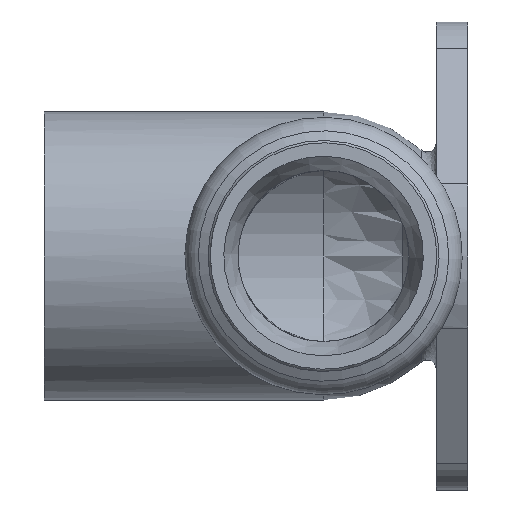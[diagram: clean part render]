
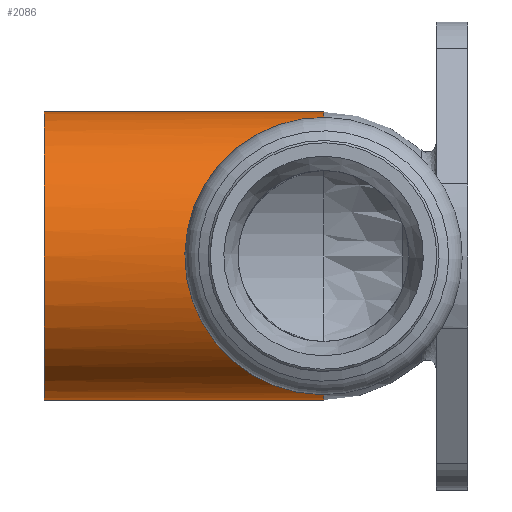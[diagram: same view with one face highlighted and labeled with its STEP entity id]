
A CAD part, left-side view. The second image highlights one B-rep face of the part: STEP entity #2086.
In plain terms, the highlighted cylindrical face has radius 16 mm (diameter 32 mm), a full revolution.
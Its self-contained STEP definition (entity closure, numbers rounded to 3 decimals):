
#751=CARTESIAN_POINT('',(16.,31.,0.0));
#752=VERTEX_POINT('',#751);
#753=CARTESIAN_POINT('',(0.,31.,0.0));
#754=DIRECTION('',(0.0,-1.0,0.0));
#755=DIRECTION('',(1.0,0.0,0.0));
#756=AXIS2_PLACEMENT_3D('',#753,#754,#755);
#757=CIRCLE('',#756,16.);
#758=EDGE_CURVE('',#752,#752,#757,.T.);
#1076=CARTESIAN_POINT('',(-9.076,0.,13.176));
#1077=VERTEX_POINT('',#1076);
#1110=CARTESIAN_POINT('',(-9.076,0.,-13.176));
#1111=VERTEX_POINT('',#1110);
#1119=CARTESIAN_POINT('',(0.,0.0,-16.));
#1120=VERTEX_POINT('',#1119);
#1121=CARTESIAN_POINT('',(0.,0.0,0.0));
#1122=DIRECTION('',(0.0,-1.0,0.0));
#1123=DIRECTION('',(1.0,0.0,0.0));
#1124=AXIS2_PLACEMENT_3D('',#1121,#1122,#1123);
#1125=CIRCLE('',#1124,16.);
#1126=EDGE_CURVE('',#1111,#1120,#1125,.T.);
#1128=CARTESIAN_POINT('',(0.,0.0,16.));
#1129=VERTEX_POINT('',#1128);
#1130=CARTESIAN_POINT('',(0.,0.0,0.0));
#1131=DIRECTION('',(0.0,-1.0,0.0));
#1132=DIRECTION('',(1.0,0.0,0.0));
#1133=AXIS2_PLACEMENT_3D('',#1130,#1131,#1132);
#1134=CIRCLE('',#1133,16.);
#1135=EDGE_CURVE('',#1120,#1129,#1134,.T.);
#1137=CARTESIAN_POINT('',(0.,0.0,0.0));
#1138=DIRECTION('',(0.0,-1.0,0.0));
#1139=DIRECTION('',(1.0,0.0,0.0));
#1140=AXIS2_PLACEMENT_3D('',#1137,#1138,#1139);
#1141=CIRCLE('',#1140,16.);
#1142=EDGE_CURVE('',#1129,#1077,#1141,.T.);
#1996=CARTESIAN_POINT('',(-9.076,0.,13.176));
#1997=CARTESIAN_POINT('',(-9.076,0.556,13.176));
#1998=CARTESIAN_POINT('',(-9.169,1.667,13.113));
#1999=CARTESIAN_POINT('',(-9.55,3.268,12.842));
#2000=CARTESIAN_POINT('',(-10.014,4.531,12.484));
#2001=CARTESIAN_POINT('',(-10.41,5.426,12.152));
#2002=CARTESIAN_POINT('',(-10.632,5.885,11.958));
#2003=CARTESIAN_POINT('',(-11.351,7.316,11.308));
#2004=CARTESIAN_POINT('',(-12.399,9.017,10.213));
#2005=CARTESIAN_POINT('',(-13.653,10.848,8.401));
#2006=CARTESIAN_POINT('',(-14.332,11.788,7.153));
#2007=CARTESIAN_POINT('',(-14.836,12.471,6.016));
#2008=CARTESIAN_POINT('',(-15.285,13.07,4.818));
#2009=CARTESIAN_POINT('',(-15.738,13.661,3.12));
#2010=CARTESIAN_POINT('',(-16.011,14.014,1.057));
#2011=CARTESIAN_POINT('',(-16.012,14.015,-0.696));
#2012=CARTESIAN_POINT('',(-15.876,13.839,-2.079));
#2013=CARTESIAN_POINT('',(-15.654,13.552,-3.431));
#2014=CARTESIAN_POINT('',(-15.33,13.129,-4.65));
#2015=CARTESIAN_POINT('',(-14.893,12.547,-5.875));
#2016=CARTESIAN_POINT('',(-14.522,12.046,-6.744));
#2017=CARTESIAN_POINT('',(-14.08,11.439,-7.617));
#2018=CARTESIAN_POINT('',(-13.457,10.564,-8.695));
#2019=CARTESIAN_POINT('',(-12.819,9.631,-9.6));
#2020=CARTESIAN_POINT('',(-12.085,8.486,-10.498));
#2021=CARTESIAN_POINT('',(-11.475,7.481,-11.167));
#2022=CARTESIAN_POINT('',(-10.879,6.393,-11.739));
#2023=CARTESIAN_POINT('',(-10.319,5.243,-12.234));
#2024=CARTESIAN_POINT('',(-9.913,4.278,-12.563));
#2025=CARTESIAN_POINT('',(-9.487,3.002,-12.887));
#2026=CARTESIAN_POINT('',(-9.169,1.668,-13.113));
#2027=CARTESIAN_POINT('',(-9.076,0.556,-13.176));
#2028=CARTESIAN_POINT('',(-9.076,0.,-13.176));
#2029=B_SPLINE_CURVE_WITH_KNOTS('',3,(#1996,#1997,#1998,#1999,#2000,#2001,#2002,#2003,#2004,#2005,#2006,#2007,#2008,#2009,#2010,#2011,#2012,#2013,#2014,#2015,#2016,#2017,#2018,#2019,#2020,#2021,#2022,#2023,#2024,#2025,#2026,#2027,#2028),.UNSPECIFIED.,.F.,.U.,(4,1,1,1,1,1,1,1,1,1,1,1,1,1,1,1,1,1,1,1,1,1,1,1,1,1,1,1,1,1,4),(-4.67,-4.503,-4.336,-4.169,-4.086,-4.023,-4.002,-3.558,-3.335,-3.113,-3.03,-2.891,-2.668,-2.446,-2.224,-2.112,-2.001,-1.779,-1.695,-1.557,-1.445,-1.334,-1.084,-1.001,-0.834,-0.667,-0.584,-0.417,-0.334,-0.167,0.0),.UNSPECIFIED.);
#2030=EDGE_CURVE('',#1077,#1111,#2029,.T.);
#2072=CARTESIAN_POINT('',(0.,15.5,0.0));
#2073=DIRECTION('',(0.,-1.0,0.0));
#2074=DIRECTION('',(1.0,0.0,0.0));
#2075=AXIS2_PLACEMENT_3D('',#2072,#2073,#2074);
#2076=CYLINDRICAL_SURFACE('',#2075,16.);
#2077=ORIENTED_EDGE('',*,*,#758,.T.);
#2078=EDGE_LOOP('',(#2077));
#2079=FACE_OUTER_BOUND('',#2078,.T.);
#2080=ORIENTED_EDGE('',*,*,#2030,.F.);
#2081=ORIENTED_EDGE('',*,*,#1142,.F.);
#2082=ORIENTED_EDGE('',*,*,#1135,.F.);
#2083=ORIENTED_EDGE('',*,*,#1126,.F.);
#2084=EDGE_LOOP('',(#2080,#2081,#2082,#2083));
#2085=FACE_BOUND('',#2084,.T.);
#2086=ADVANCED_FACE('',(#2079,#2085),#2076,.T.);
